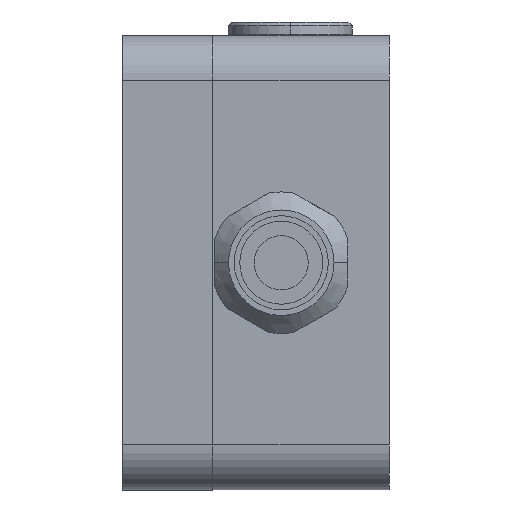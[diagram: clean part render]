
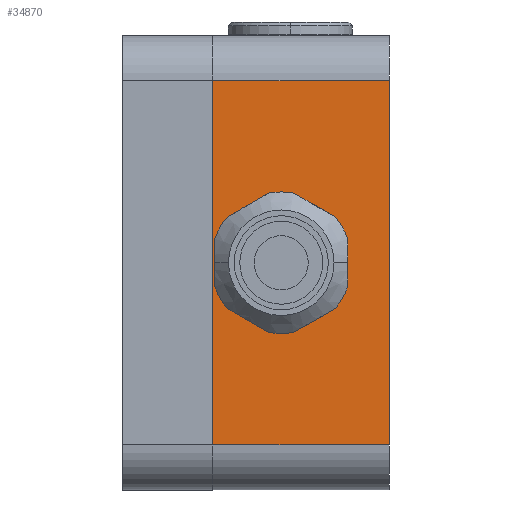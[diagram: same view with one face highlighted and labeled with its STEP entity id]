
A CAD part, left-side view. The second image highlights one B-rep face of the part: STEP entity #34870.
In plain terms, the highlighted planar face has unit normal (-1, 0, 0).
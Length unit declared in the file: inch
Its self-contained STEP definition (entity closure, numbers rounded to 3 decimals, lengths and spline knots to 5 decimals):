
#80 = ORIENTED_EDGE ( 'NONE', *, *, #23894, .F. ) ;
#196 = ORIENTED_EDGE ( 'NONE', *, *, #18083, .F. ) ;
#576 = CARTESIAN_POINT ( 'NONE',  ( -2.955, 0.56399, 0.29884 ) ) ;
#638 = AXIS2_PLACEMENT_3D ( 'NONE', #6318, #11673, #31438 ) ;
#717 = VECTOR ( 'NONE', #5029, 39.37008 ) ;
#1375 = CARTESIAN_POINT ( 'NONE',  ( -2.955, 0.63601, -0.29884 ) ) ;
#1655 = LINE ( 'NONE', #10943, #15846 ) ;
#3293 = VECTOR ( 'NONE', #32478, 39.37008 ) ;
#3980 = CARTESIAN_POINT ( 'NONE',  ( -2.955, 0.81967, 0.20578 ) ) ;
#4031 = VERTEX_POINT ( 'NONE', #31670 ) ;
#4077 = CARTESIAN_POINT ( 'NONE',  ( -2.955, 0., -1.01 ) ) ;
#4782 = CARTESIAN_POINT ( 'NONE',  ( -2.955, 0.98, -1.01 ) ) ;
#5029 = DIRECTION ( 'NONE',  ( 0., 1., 0. ) ) ;
#5781 = CARTESIAN_POINT ( 'NONE',  ( -2.955, 0.98, 1.01 ) ) ;
#6318 = CARTESIAN_POINT ( 'NONE',  ( -2.955, 0.98, 1.26 ) ) ;
#6872 = AXIS2_PLACEMENT_3D ( 'NONE', #25623, #27909, #16975 ) ;
#7137 = ORIENTED_EDGE ( 'NONE', *, *, #29755, .F. ) ;
#7513 = VECTOR ( 'NONE', #10468, 39.37008 ) ;
#7610 = EDGE_LOOP ( 'NONE', ( #13360, #7137, #18821, #196 ) ) ;
#8103 = EDGE_CURVE ( 'NONE', #4031, #18964, #34145, .T. ) ;
#8528 = VECTOR ( 'NONE', #23251, 39.37008 ) ;
#10258 = DIRECTION ( 'NONE',  ( -1., 0., 0. ) ) ;
#10368 = DIRECTION ( 'NONE',  ( 0., 0., 1. ) ) ;
#10416 = CARTESIAN_POINT ( 'NONE',  ( -2.955, 0., 0. ) ) ;
#10468 = DIRECTION ( 'NONE',  ( 0., -0.94, 0.342 ) ) ;
#10943 = CARTESIAN_POINT ( 'NONE',  ( -2.955, 0.98, 1.01 ) ) ;
#11197 = ORIENTED_EDGE ( 'NONE', *, *, #31014, .F. ) ;
#11666 = DIRECTION ( 'NONE',  ( 0., 0., 1. ) ) ;
#11673 = DIRECTION ( 'NONE',  ( 1., 0., 0. ) ) ;
#13360 = ORIENTED_EDGE ( 'NONE', *, *, #29702, .F. ) ;
#14442 = FACE_OUTER_BOUND ( 'NONE', #7610, .T. ) ;
#14676 = AXIS2_PLACEMENT_3D ( 'NONE', #21323, #10258, #10368 ) ;
#15846 = VECTOR ( 'NONE', #22496, 39.37008 ) ;
#16606 = VERTEX_POINT ( 'NONE', #21878 ) ;
#16975 = DIRECTION ( 'NONE',  ( 0., 0., 1. ) ) ;
#17668 = CARTESIAN_POINT ( 'NONE',  ( -2.955, 0.56399, 0.29884 ) ) ;
#17680 = ORIENTED_EDGE ( 'NONE', *, *, #8103, .F. ) ;
#17775 = LINE ( 'NONE', #20683, #7513 ) ;
#18083 = EDGE_CURVE ( 'NONE', #16606, #33822, #27097, .T. ) ;
#18821 = ORIENTED_EDGE ( 'NONE', *, *, #29404, .F. ) ;
#18964 = VERTEX_POINT ( 'NONE', #576 ) ;
#20683 = CARTESIAN_POINT ( 'NONE',  ( -2.955, 0.63601, -0.29884 ) ) ;
#21108 = VERTEX_POINT ( 'NONE', #4077 ) ;
#21323 = CARTESIAN_POINT ( 'NONE',  ( -2.955, 0.6, 0. ) ) ;
#21878 = CARTESIAN_POINT ( 'NONE',  ( -2.955, 0.98, -1.01 ) ) ;
#22496 = DIRECTION ( 'NONE',  ( 0., -1., 0. ) ) ;
#22596 = CIRCLE ( 'NONE', #14676, 0.301 ) ;
#23251 = DIRECTION ( 'NONE',  ( 0., 0.94, -0.342 ) ) ;
#23894 = EDGE_CURVE ( 'NONE', #35105, #27008, #22596, .T. ) ;
#25149 = EDGE_LOOP ( 'NONE', ( #11197, #17680, #33409, #80 ) ) ;
#25361 = LINE ( 'NONE', #4782, #717 ) ;
#25623 = CARTESIAN_POINT ( 'NONE',  ( -2.955, 0.6, 0. ) ) ;
#25926 = PLANE ( 'NONE',  #638 ) ;
#27008 = VERTEX_POINT ( 'NONE', #1375 ) ;
#27097 = LINE ( 'NONE', #28220, #30066 ) ;
#27909 = DIRECTION ( 'NONE',  ( -1., 0., 0. ) ) ;
#28220 = CARTESIAN_POINT ( 'NONE',  ( -2.955, 0.98, 1.26 ) ) ;
#28638 = EDGE_CURVE ( 'NONE', #27008, #4031, #17775, .T. ) ;
#29404 = EDGE_CURVE ( 'NONE', #33822, #33254, #1655, .T. ) ;
#29702 = EDGE_CURVE ( 'NONE', #21108, #16606, #25361, .T. ) ;
#29755 = EDGE_CURVE ( 'NONE', #33254, #21108, #35231, .T. ) ;
#30066 = VECTOR ( 'NONE', #11666, 39.37008 ) ;
#30483 = LINE ( 'NONE', #17668, #8528 ) ;
#31014 = EDGE_CURVE ( 'NONE', #18964, #35105, #30483, .T. ) ;
#31438 = DIRECTION ( 'NONE',  ( 0., 0., -1. ) ) ;
#31670 = CARTESIAN_POINT ( 'NONE',  ( -2.955, 0.38033, -0.20578 ) ) ;
#32478 = DIRECTION ( 'NONE',  ( 0., 0., -1. ) ) ;
#32981 = CARTESIAN_POINT ( 'NONE',  ( -2.955, 0., 1.01 ) ) ;
#33254 = VERTEX_POINT ( 'NONE', #32981 ) ;
#33409 = ORIENTED_EDGE ( 'NONE', *, *, #28638, .F. ) ;
#33460 = FACE_BOUND ( 'NONE', #25149, .T. ) ;
#33822 = VERTEX_POINT ( 'NONE', #5781 ) ;
#34145 = CIRCLE ( 'NONE', #6872, 0.301 ) ;
#34870 = ADVANCED_FACE ( 'NONE', ( #14442, #33460 ), #25926, .F. ) ;
#35105 = VERTEX_POINT ( 'NONE', #3980 ) ;
#35231 = LINE ( 'NONE', #10416, #3293 ) ;
